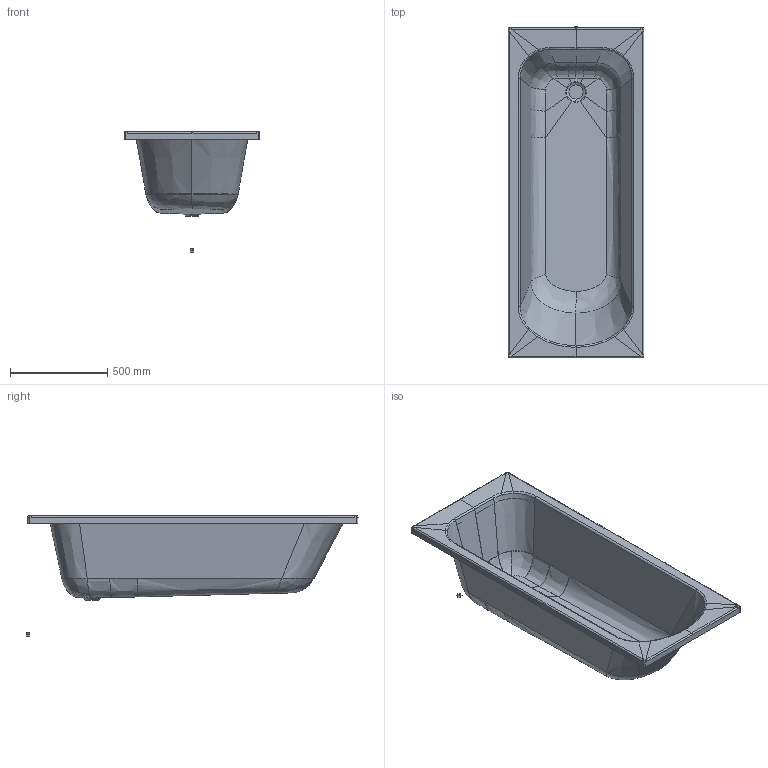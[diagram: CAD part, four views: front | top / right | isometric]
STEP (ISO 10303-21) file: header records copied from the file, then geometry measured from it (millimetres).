
FILE_DESCRIPTION((''),'2;1');
FILE_NAME('WN1342_3DPL','2019-04-10T',('HristovG'),('AMERICAN STANDARD B&K'),'CREO PARAMETRIC BY PTC INC, 2016130','CREO PARAMETRIC BY PTC INC, 2016130','');
FILE_SCHEMA(('CONFIG_CONTROL_DESIGN'));
Length unit declared in the file: millimetre
Products named in the file (1): WN1342_3DPL
Bounding box: 700 x 1710 x 619.88 mm (x, y, z)
Volume: 20815534.8 mm3; surface area: 4531721.6 mm2
Topology: 1 solids, 4 shells, 146 faces, 340 edges, 200 vertices
Faces by surface type: bspline 108, plane 18, cone 12, cylinder 4, sphere 4
Entity records: 11892 total; most frequent: CARTESIAN_POINT 9207, ORIENTED_EDGE 668, EDGE_CURVE 340, DIRECTION 326, VERTEX_POINT 200, B_SPLINE_CURVE_WITH_KNOTS 158, EDGE_LOOP 147, FACE_OUTER_BOUND 146
